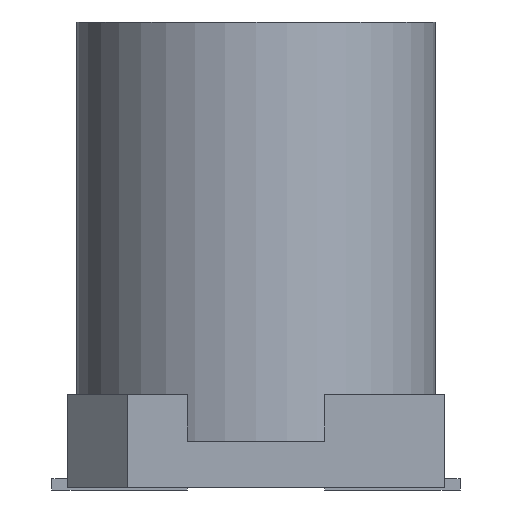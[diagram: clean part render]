
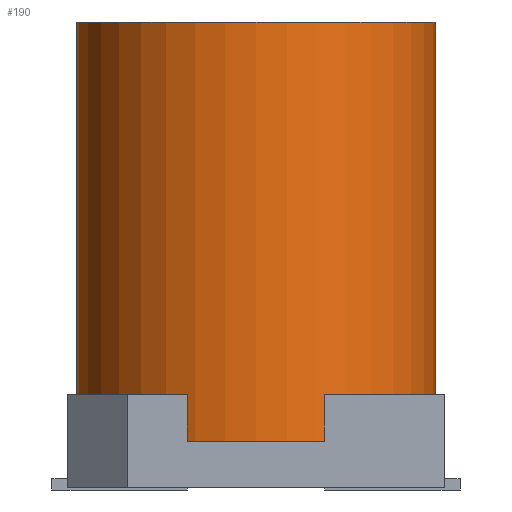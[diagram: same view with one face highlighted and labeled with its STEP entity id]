
A CAD part, front view. The second image highlights one B-rep face of the part: STEP entity #190.
In plain terms, the highlighted cylindrical face has radius 4.039 mm (diameter 8.078 mm), a full revolution.
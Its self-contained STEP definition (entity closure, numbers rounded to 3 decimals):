
#190=ADVANCED_FACE($,(#196,#195),#213,.T.);
#195=FACE_BOUND($,#200,.T.);
#196=FACE_OUTER_BOUND($,#199,.T.);
#199=EDGE_LOOP($,(#209));
#200=EDGE_LOOP($,(#210));
#203=CIRCLE($,#216,4.039);
#204=CIRCLE($,#217,4.039);
#205=VERTEX_POINT('',#234);
#206=VERTEX_POINT('',#236);
#207=EDGE_CURVE($,#205,#205,#203,.T.);
#208=EDGE_CURVE($,#206,#206,#204,.T.);
#209=ORIENTED_EDGE($,*,*,#207,.F.);
#210=ORIENTED_EDGE($,*,*,#208,.F.);
#213=CYLINDRICAL_SURFACE($,#215,4.039);
#215=AXIS2_PLACEMENT_3D($,#233,#222,#223);
#216=AXIS2_PLACEMENT_3D($,#235,#224,#225);
#217=AXIS2_PLACEMENT_3D($,#237,#226,#227);
#222=DIRECTION('',(0.,0.,1.));
#223=DIRECTION('',(1.,0.,0.));
#224=DIRECTION('',(0.,0.,1.));
#225=DIRECTION('',(1.,0.,0.));
#226=DIRECTION('',(0.,0.,-1.));
#227=DIRECTION('',(1.,0.,0.));
#233=CARTESIAN_POINT('',(0.0,0.0,1.102));
#234=CARTESIAN_POINT('',(-4.039,0.0,10.544));
#235=CARTESIAN_POINT('',(0.0,0.0,10.544));
#236=CARTESIAN_POINT('',(-4.039,0.0,1.102));
#237=CARTESIAN_POINT('',(0.0,0.0,1.102));
